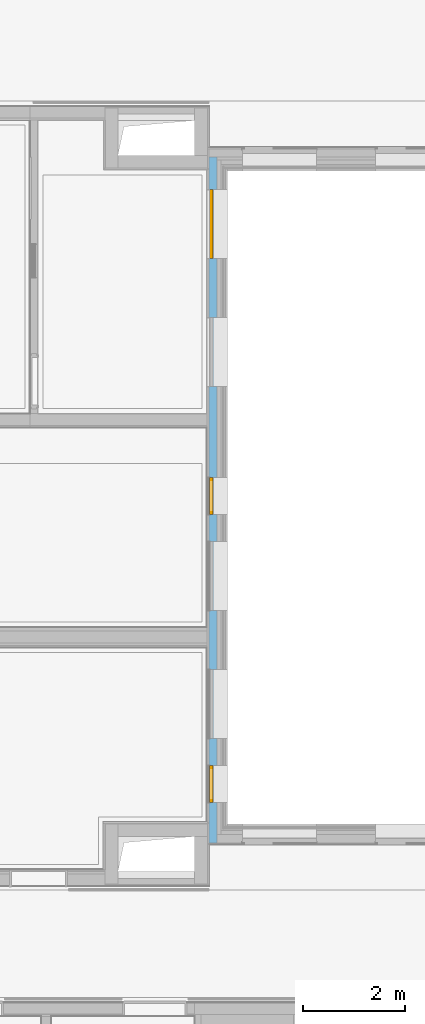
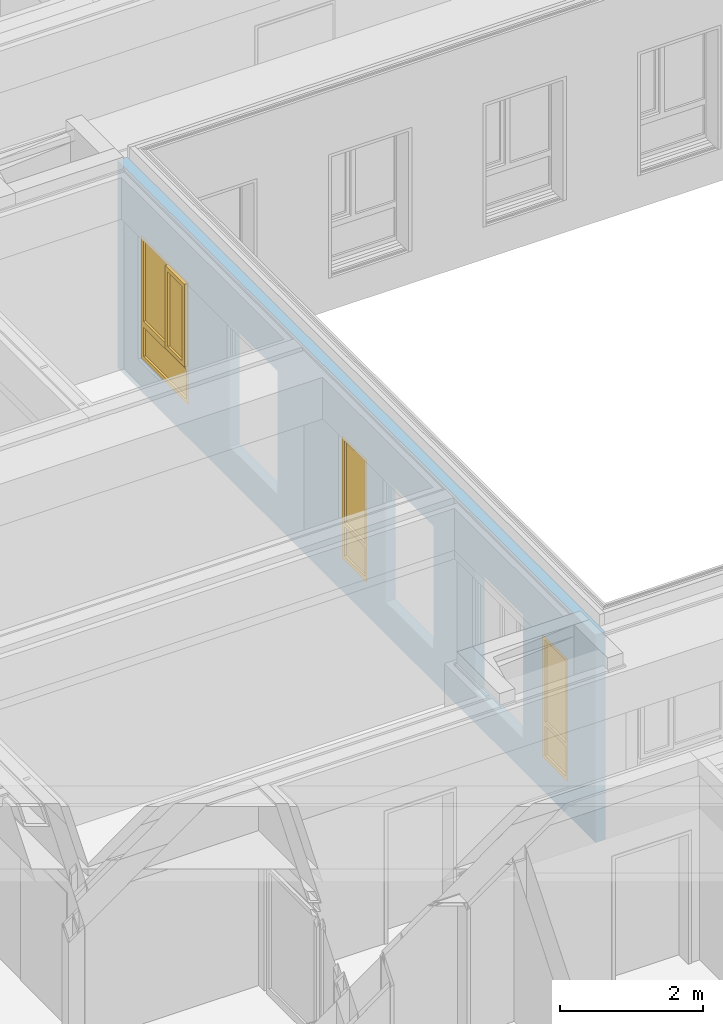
# One storey, part 121 of 222: 3 windows, 6 openings, plus 1 element that does not belong to this part.
"""IFC4 building model written with IfcOpenShell, lengths in metres."""

from ifc_helpers import new_model, entity, si_unit, converted_unit, derived_unit, frame, frame_2d, origin, origin_with_axes, place, context, subcontext, project, spatial, polyline, rectangle, outline, extrude, closed_shell, open_shell, surface_model, source, transform, mapped, material, element, fill, save


model = new_model("IFC4")

# Units and contexts
model_context = context("Model", 3, precision=1e-05, world=origin())
body_context = subcontext(model_context, "Body", "Model", "MODEL_VIEW")
ifc_project = project(units=[si_unit("LENGTHUNIT", "METRE"), si_unit("AREAUNIT", "SQUARE_METRE"), si_unit("VOLUMEUNIT", "CUBIC_METRE"), si_unit("MASSUNIT", "GRAM", prefix="KILO"), converted_unit("PLANEANGLEUNIT", "DEGREE", entity("IfcPlaneAngleMeasure", 0.0174532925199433), si_unit("PLANEANGLEUNIT", "RADIAN"), dimensions=[0, 0, 0, 0, 0, 0, 0]), derived_unit("THERMALTRANSMITTANCEUNIT", [(si_unit("POWERUNIT", "WATT"), 1), (si_unit("THERMODYNAMICTEMPERATUREUNIT", "KELVIN"), -1), (si_unit("LENGTHUNIT", "METRE"), -2)]), derived_unit("VOLUMETRICFLOWRATEUNIT", [(si_unit("LENGTHUNIT", "METRE"), 3), (converted_unit("TIMEUNIT", "hour", entity("IfcTimeMeasure", 3600.0), si_unit("TIMEUNIT", "SECOND"), dimensions=[0, 0, 1, 0, 0, 0, 0]), -1), (si_unit("LENGTHUNIT", "METRE"), -1)])], contexts=[model_context])

# Site, building, storey
site_placement = place(None, origin())
site = spatial("IfcSite", under=ifc_project, at=site_placement, Name="Psychiatrie Neubau Wunstorf", CompositionType="ELEMENT")
building_placement = place(site_placement, origin())
building = spatial("IfcBuilding", under=site, at=building_placement, Name="Neubau H2 Stationsgebäude", CompositionType="ELEMENT")
storey_placement = place(building_placement, frame((0.0, 0.0, 3.6)))
storey = spatial("IfcBuildingStorey", under=building, at=storey_placement, Name="H2 Ebene +1", CompositionType="ELEMENT", Elevation=3.6)

# Wall, openings, windows
ifc_material = material(Name="WA-DL")
wall_placement = place(storey_placement, frame((79.175, 21.840001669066, 0.0), z_axis=(0.0, 0.0, 1.0), x_axis=(0.0, -1.0, 0.0)))
wall = element("IfcWall", 1, at=wall_placement, inside=storey, material=ifc_material, context=body_context, shape_type="SweptSolid", body=[
    extrude(rectangle(XDim=13.390001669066, YDim=0.16, at=frame_2d((6.695000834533, 0.08), x_axis=(1.0, 0.0))), origin_with_axes(), (0.0, 0.0, 1.0), 3.55),
])
opening_1_placement = place(wall_placement, frame((11.3565882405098, 0.16, 0.55), z_axis=(0.0, -1.0, 0.0), x_axis=(0.0, 0.0, 1.0)))
element("IfcOpeningElement", 2, at=opening_1_placement, cuts=wall, Name="Fensteröffnung", ObjectType="Opening", context=body_context, shape_type="SweptSolid", body=[
    extrude(outline(polyline([(2.115, 1.35), (2.115, 0.0), (0.0, 0.0), (0.0, 1.35), (2.115, 1.35)])), origin_with_axes(), (0.0, 0.0, 1.0), 0.16),
])
opening_2_placement = place(wall_placement, frame((8.85664578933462, 0.16, 0.55), z_axis=(0.0, -1.0, 0.0), x_axis=(0.0, 0.0, 1.0)))
element("IfcOpeningElement", 3, at=opening_2_placement, cuts=wall, Name="Fensteröffnung", ObjectType="Opening", context=body_context, shape_type="SweptSolid", body=[
    extrude(outline(polyline([(2.115, 1.35), (2.115, 0.0), (0.0, 0.0), (0.0, 1.35), (2.115, 1.35)])), origin_with_axes(), (0.0, 0.0, 1.0), 0.16),
])
opening_3_placement = place(wall_placement, frame((4.48200631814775, 0.16, 0.55), z_axis=(0.0, -1.0, 0.0), x_axis=(0.0, 0.0, 1.0)))
element("IfcOpeningElement", 4, at=opening_3_placement, cuts=wall, Name="Fensteröffnung", ObjectType="Opening", context=body_context, shape_type="SweptSolid", body=[
    extrude(outline(polyline([(2.115, 1.35), (2.115, 0.0), (0.0, 0.0), (0.0, 1.35), (2.115, 1.35)])), origin_with_axes(), (0.0, 0.0, 1.0), 0.16),
])
opening_4_placement = place(wall_placement, frame((1.98244645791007, 0.16, 0.55), z_axis=(0.0, -1.0, 0.0), x_axis=(0.0, 0.0, 1.0)))
opening_4 = element("IfcOpeningElement", 5, at=opening_4_placement, cuts=wall, Name="Fensteröffnung", ObjectType="Opening", context=body_context, shape_type="SweptSolid", body=[
    extrude(outline(polyline([(2.115, 1.35), (2.115, 0.0), (0.0, 0.0), (0.0, 1.35), (2.115, 1.35)])), origin_with_axes(), (0.0, 0.0, 1.0), 0.16),
])
opening_5_placement = place(wall_placement, frame((12.6050016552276, 0.16, 0.55), z_axis=(0.0, -1.0, 0.0), x_axis=(0.0, 0.0, 1.0)))
opening_5 = element("IfcOpeningElement", 6, at=opening_5_placement, cuts=wall, Name="Fensteröffnung", ObjectType="Opening", context=body_context, shape_type="SweptSolid", body=[
    extrude(outline(polyline([(2.115, 0.725), (2.115, 0.0), (0.0, 0.0), (0.0, 0.725), (2.115, 0.725)])), origin_with_axes(), (0.0, 0.0, 1.0), 0.16),
])
opening_6_placement = place(wall_placement, frame((6.98238889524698, 0.16, 0.55), z_axis=(0.0, -1.0, 0.0), x_axis=(0.0, 0.0, 1.0)))
opening_6 = element("IfcOpeningElement", 7, at=opening_6_placement, cuts=wall, Name="Fensteröffnung", ObjectType="Opening", context=body_context, shape_type="SweptSolid", body=[
    extrude(outline(polyline([(2.115, 0.725), (2.115, 0.0), (0.0, 0.0), (0.0, 0.725), (2.115, 0.725)])), origin_with_axes(), (0.0, 0.0, 1.0), 0.16),
])
shared_shape_1 = source(origin_with_axes(), body_context, "Body", "SurfaceModel", [
    surface_model("IfcShellBasedSurfaceModel", [(1.35000000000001, 0.0, 2.115), (1.35000000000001, 0.0, 0.0), (1.28000000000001, 0.0, 0.0), (1.28000000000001, 0.0, 2.115), (1.35000000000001, 0.0699999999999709, 0.0), (1.35000000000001, 0.0699999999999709, 2.115), (1.28000000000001, 0.0699999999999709, 2.115), (1.28000000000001, 0.0699999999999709, 0.0)], [closed_shell([[[0, 1, 2, 3]], [[4, 5, 6, 7]], [[1, 0, 5, 4]], [[2, 1, 4, 7]], [[3, 2, 7, 6]], [[0, 3, 6, 5]]], orient=[[False], [False], [False], [False], [False], [False]])]),
    surface_model("IfcShellBasedSurfaceModel", [(0.0700000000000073, 0.0, 2.115), (0.0700000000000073, 0.0, 0.0), (0.0, 0.0, 0.0), (0.0, 0.0, 2.115), (0.0700000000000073, 0.0699999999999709, 0.0), (0.0700000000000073, 0.0699999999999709, 2.115), (0.0, 0.0699999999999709, 2.115), (0.0, 0.0699999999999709, 0.0)], [closed_shell([[[0, 1, 2, 3]], [[4, 5, 6, 7]], [[1, 0, 5, 4]], [[2, 1, 4, 7]], [[3, 2, 7, 6]], [[0, 3, 6, 5]]], orient=[[False], [False], [False], [False], [False], [False]])]),
    surface_model("IfcShellBasedSurfaceModel", [(1.28000000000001, 0.0, 0.07), (1.28000000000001, 0.0, 0.0), (0.0700000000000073, 0.0, 0.0), (0.0700000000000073, 0.0, 0.07), (1.28000000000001, 0.0699999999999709, 0.0), (1.28000000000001, 0.0699999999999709, 0.07), (0.0700000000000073, 0.0699999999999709, 0.07), (0.0700000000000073, 0.0699999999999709, 0.0)], [closed_shell([[[0, 1, 2, 3]], [[4, 5, 6, 7]], [[1, 0, 5, 4]], [[2, 1, 4, 7]], [[3, 2, 7, 6]], [[0, 3, 6, 5]]], orient=[[False], [False], [False], [False], [False], [False]])]),
    surface_model("IfcShellBasedSurfaceModel", [(1.28000000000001, 0.0, 2.115), (1.28000000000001, 0.0, 2.045), (0.0700000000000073, 0.0, 2.045), (0.0700000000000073, 0.0, 2.115), (1.28000000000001, 0.0699999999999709, 2.045), (1.28000000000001, 0.0699999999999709, 2.115), (0.0700000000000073, 0.0699999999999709, 2.115), (0.0700000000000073, 0.0699999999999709, 2.045)], [closed_shell([[[0, 1, 2, 3]], [[4, 5, 6, 7]], [[1, 0, 5, 4]], [[2, 1, 4, 7]], [[3, 2, 7, 6]], [[0, 3, 6, 5]]], orient=[[False], [False], [False], [False], [False], [False]])]),
    surface_model("IfcShellBasedSurfaceModel", [(1.28000000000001, 0.0, 0.67), (1.28000000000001, 0.0, 0.57), (0.0700000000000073, 0.0, 0.57), (0.0700000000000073, 0.0, 0.67), (1.28000000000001, 0.0699999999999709, 0.57), (1.28000000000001, 0.0699999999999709, 0.67), (0.0700000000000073, 0.0699999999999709, 0.67), (0.0700000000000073, 0.0699999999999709, 0.57)], [closed_shell([[[0, 1, 2, 3]], [[4, 5, 6, 7]], [[1, 0, 5, 4]], [[2, 1, 4, 7]], [[3, 2, 7, 6]], [[0, 3, 6, 5]]], orient=[[False], [False], [False], [False], [False], [False]])]),
    surface_model("IfcShellBasedSurfaceModel", [(1.28000000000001, 0.0349999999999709, 0.07), (0.0700000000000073, 0.0349999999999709, 0.07), (0.0700000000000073, 0.0349999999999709, 0.57), (1.28000000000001, 0.0349999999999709, 0.57)], [open_shell([[[0, 1, 2, 3]]], orient=[[False]])]),
    surface_model("IfcShellBasedSurfaceModel", [(0.784300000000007, 0.0, 2.045), (0.784300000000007, 0.0, 0.67), (0.714300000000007, 0.0, 0.67), (0.714300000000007, 0.0, 2.045), (0.784300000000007, 0.0699999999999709, 0.67), (0.784300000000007, 0.0699999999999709, 2.045), (0.714300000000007, 0.0699999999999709, 2.045), (0.714300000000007, 0.0699999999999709, 0.67)], [closed_shell([[[0, 1, 2, 3]], [[4, 5, 6, 7]], [[1, 0, 5, 4]], [[2, 1, 4, 7]], [[3, 2, 7, 6]], [[0, 3, 6, 5]]], orient=[[False], [False], [False], [False], [False], [False]])]),
    surface_model("IfcShellBasedSurfaceModel", [(1.30000000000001, -0.0500000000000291, 2.065), (1.30000000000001, -0.0500000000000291, 0.65), (1.23000000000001, -0.0500000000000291, 0.65), (1.23000000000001, -0.0500000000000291, 2.065), (1.30000000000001, 0.0199999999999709, 0.65), (1.30000000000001, 0.0199999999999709, 2.065), (1.23000000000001, 0.0199999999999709, 2.065), (1.23000000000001, 0.0199999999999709, 0.65)], [closed_shell([[[0, 1, 2, 3]], [[4, 5, 6, 7]], [[1, 0, 5, 4]], [[2, 1, 4, 7]], [[3, 2, 7, 6]], [[0, 3, 6, 5]]], orient=[[False], [False], [False], [False], [False], [False]])]),
    surface_model("IfcShellBasedSurfaceModel", [(0.834300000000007, -0.0500000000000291, 2.065), (0.834300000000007, -0.0500000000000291, 0.65), (0.764300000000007, -0.0500000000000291, 0.65), (0.764300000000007, -0.0500000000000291, 2.065), (0.834300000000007, 0.0199999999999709, 0.65), (0.834300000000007, 0.0199999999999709, 2.065), (0.764300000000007, 0.0199999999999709, 2.065), (0.764300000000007, 0.0199999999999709, 0.65)], [closed_shell([[[0, 1, 2, 3]], [[4, 5, 6, 7]], [[1, 0, 5, 4]], [[2, 1, 4, 7]], [[3, 2, 7, 6]], [[0, 3, 6, 5]]], orient=[[False], [False], [False], [False], [False], [False]])]),
    surface_model("IfcShellBasedSurfaceModel", [(1.23000000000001, -0.0500000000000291, 0.72), (1.23000000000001, -0.0500000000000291, 0.65), (0.834300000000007, -0.0500000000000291, 0.65), (0.834300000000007, -0.0500000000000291, 0.72), (1.23000000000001, 0.0199999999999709, 0.65), (1.23000000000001, 0.0199999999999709, 0.72), (0.834300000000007, 0.0199999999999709, 0.72), (0.834300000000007, 0.0199999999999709, 0.65)], [closed_shell([[[0, 1, 2, 3]], [[4, 5, 6, 7]], [[1, 0, 5, 4]], [[2, 1, 4, 7]], [[3, 2, 7, 6]], [[0, 3, 6, 5]]], orient=[[False], [False], [False], [False], [False], [False]])]),
    surface_model("IfcShellBasedSurfaceModel", [(1.23000000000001, -0.0500000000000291, 2.065), (1.23000000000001, -0.0500000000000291, 1.995), (0.834300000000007, -0.0500000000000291, 1.995), (0.834300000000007, -0.0500000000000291, 2.065), (1.23000000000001, 0.0199999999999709, 1.995), (1.23000000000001, 0.0199999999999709, 2.065), (0.834300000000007, 0.0199999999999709, 2.065), (0.834300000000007, 0.0199999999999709, 1.995)], [closed_shell([[[0, 1, 2, 3]], [[4, 5, 6, 7]], [[1, 0, 5, 4]], [[2, 1, 4, 7]], [[3, 2, 7, 6]], [[0, 3, 6, 5]]], orient=[[False], [False], [False], [False], [False], [False]])]),
    surface_model("IfcShellBasedSurfaceModel", [(0.714300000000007, 0.0349999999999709, 0.67), (0.0700000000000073, 0.0349999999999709, 0.67), (0.0700000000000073, 0.0349999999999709, 2.045), (0.714300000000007, 0.0349999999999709, 2.045)], [open_shell([[[0, 1, 2, 3]]], orient=[[False]])]),
    surface_model("IfcShellBasedSurfaceModel", [(1.23000000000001, -0.0150000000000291, 0.72), (0.834300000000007, -0.0150000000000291, 0.72), (0.834300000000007, -0.0150000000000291, 1.995), (1.23000000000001, -0.0150000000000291, 1.995)], [open_shell([[[0, 1, 2, 3]]], orient=[[False]])]),
])
window_1_placement = place(opening_4_placement, frame((0.0, 1.35, 0.146), z_axis=(1.0, 0.0, 0.0), x_axis=(0.0, -1.0, 0.0)))
window_1 = element("IfcWindow", 8, at=window_1_placement, inside=storey, Name="Fenster", OverallHeight=2.115, OverallWidth=1.35, PartitioningType="USERDEFINED", PredefinedType="WINDOW", context=body_context, shape_type="MappedRepresentation", body=[
    mapped(shared_shape_1, transform((0.0, 0.0, 0.0), x_axis=(1.0, 0.0, 0.0), y_axis=(0.0, 1.0, 0.0), z_axis=(0.0, 0.0, 1.0), scale=1.0)),
])
fill(opening_4, window_1)
shared_shape_2 = source(origin_with_axes(), body_context, "Body", "SurfaceModel", [
    surface_model("IfcShellBasedSurfaceModel", [(0.0, 0.0, 2.115), (0.0699999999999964, 0.0, 2.115), (0.0699999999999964, 0.0, 0.0), (0.0, 0.0, 0.0), (0.0, 0.0700000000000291, 0.0), (0.0699999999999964, 0.0700000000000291, 0.0), (0.0699999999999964, 0.0700000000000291, 2.115), (0.0, 0.0700000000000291, 2.115)], [closed_shell([[[0, 1, 2, 3]], [[4, 5, 6, 7]], [[3, 4, 7, 0]], [[2, 5, 4, 3]], [[1, 6, 5, 2]], [[0, 7, 6, 1]]], orient=[[False], [False], [False], [False], [False], [False]])]),
    surface_model("IfcShellBasedSurfaceModel", [(0.654999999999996, 0.0, 2.115), (0.724999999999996, 0.0, 2.115), (0.724999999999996, 0.0, 0.0), (0.654999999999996, 0.0, 0.0), (0.654999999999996, 0.0700000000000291, 0.0), (0.724999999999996, 0.0700000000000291, 0.0), (0.724999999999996, 0.0700000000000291, 2.115), (0.654999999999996, 0.0700000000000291, 2.115)], [closed_shell([[[0, 1, 2, 3]], [[4, 5, 6, 7]], [[3, 4, 7, 0]], [[2, 5, 4, 3]], [[1, 6, 5, 2]], [[0, 7, 6, 1]]], orient=[[False], [False], [False], [False], [False], [False]])]),
    surface_model("IfcShellBasedSurfaceModel", [(0.0699999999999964, 0.0, 0.07), (0.654999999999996, 0.0, 0.07), (0.654999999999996, 0.0, 0.0), (0.0699999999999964, 0.0, 0.0), (0.0699999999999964, 0.0700000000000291, 0.0), (0.654999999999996, 0.0700000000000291, 0.0), (0.654999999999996, 0.0700000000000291, 0.07), (0.0699999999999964, 0.0700000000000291, 0.07)], [closed_shell([[[0, 1, 2, 3]], [[4, 5, 6, 7]], [[3, 4, 7, 0]], [[2, 5, 4, 3]], [[1, 6, 5, 2]], [[0, 7, 6, 1]]], orient=[[False], [False], [False], [False], [False], [False]])]),
    surface_model("IfcShellBasedSurfaceModel", [(0.0699999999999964, 0.0, 2.115), (0.654999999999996, 0.0, 2.115), (0.654999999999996, 0.0, 2.045), (0.0699999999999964, 0.0, 2.045), (0.0699999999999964, 0.0700000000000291, 2.045), (0.654999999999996, 0.0700000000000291, 2.045), (0.654999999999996, 0.0700000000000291, 2.115), (0.0699999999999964, 0.0700000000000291, 2.115)], [closed_shell([[[0, 1, 2, 3]], [[4, 5, 6, 7]], [[3, 4, 7, 0]], [[2, 5, 4, 3]], [[1, 6, 5, 2]], [[0, 7, 6, 1]]], orient=[[False], [False], [False], [False], [False], [False]])]),
    surface_model("IfcShellBasedSurfaceModel", [(0.0699999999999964, 0.0, 0.64), (0.654999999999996, 0.0, 0.64), (0.654999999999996, 0.0, 0.57), (0.0699999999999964, 0.0, 0.57), (0.0699999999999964, 0.0700000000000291, 0.57), (0.654999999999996, 0.0700000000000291, 0.57), (0.654999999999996, 0.0700000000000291, 0.64), (0.0699999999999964, 0.0700000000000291, 0.64)], [closed_shell([[[0, 1, 2, 3]], [[4, 5, 6, 7]], [[3, 4, 7, 0]], [[2, 5, 4, 3]], [[1, 6, 5, 2]], [[0, 7, 6, 1]]], orient=[[False], [False], [False], [False], [False], [False]])]),
    surface_model("IfcShellBasedSurfaceModel", [(0.0699999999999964, 0.0350000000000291, 0.07), (0.0699999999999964, 0.0350000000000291, 0.57), (0.654999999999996, 0.0350000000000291, 0.57), (0.654999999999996, 0.0350000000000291, 0.07)], [open_shell([[[0, 1, 2, 3]]], orient=[[False]])]),
    surface_model("IfcShellBasedSurfaceModel", [(0.0699999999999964, 0.0350000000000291, 0.64), (0.0699999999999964, 0.0350000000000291, 2.045), (0.654999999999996, 0.0350000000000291, 2.045), (0.654999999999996, 0.0350000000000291, 0.64)], [open_shell([[[0, 1, 2, 3]]], orient=[[False]])]),
])
window_2_placement = place(opening_5_placement, frame((0.0, 0.0, 0.076), z_axis=(1.0, 0.0, 0.0), x_axis=(0.0, 1.0, 0.0)))
window_2 = element("IfcWindow", 9, at=window_2_placement, inside=storey, Name="Fenster", OverallHeight=2.115, OverallWidth=0.725, PartitioningType="USERDEFINED", PredefinedType="WINDOW", context=body_context, shape_type="MappedRepresentation", body=[
    mapped(shared_shape_2, transform((0.0, 0.0, 0.0), x_axis=(1.0, 0.0, 0.0), y_axis=(0.0, 1.0, 0.0), z_axis=(0.0, 0.0, 1.0), scale=1.0)),
])
fill(opening_5, window_2)
shared_shape_3 = source(origin_with_axes(), body_context, "Body", "SurfaceModel", [
    surface_model("IfcShellBasedSurfaceModel", [(0.0, 0.0, 2.115), (0.0699999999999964, 0.0, 2.115), (0.0699999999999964, 0.0, 0.0), (0.0, 0.0, 0.0), (0.0, 0.0700000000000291, 0.0), (0.0699999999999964, 0.0700000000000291, 0.0), (0.0699999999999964, 0.0700000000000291, 2.115), (0.0, 0.0700000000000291, 2.115)], [closed_shell([[[0, 1, 2, 3]], [[4, 5, 6, 7]], [[3, 4, 7, 0]], [[2, 5, 4, 3]], [[1, 6, 5, 2]], [[0, 7, 6, 1]]], orient=[[False], [False], [False], [False], [False], [False]])]),
    surface_model("IfcShellBasedSurfaceModel", [(0.654999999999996, 0.0, 2.115), (0.724999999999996, 0.0, 2.115), (0.724999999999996, 0.0, 0.0), (0.654999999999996, 0.0, 0.0), (0.654999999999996, 0.0700000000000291, 0.0), (0.724999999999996, 0.0700000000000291, 0.0), (0.724999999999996, 0.0700000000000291, 2.115), (0.654999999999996, 0.0700000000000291, 2.115)], [closed_shell([[[0, 1, 2, 3]], [[4, 5, 6, 7]], [[3, 4, 7, 0]], [[2, 5, 4, 3]], [[1, 6, 5, 2]], [[0, 7, 6, 1]]], orient=[[False], [False], [False], [False], [False], [False]])]),
    surface_model("IfcShellBasedSurfaceModel", [(0.0699999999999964, 0.0, 0.07), (0.654999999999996, 0.0, 0.07), (0.654999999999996, 0.0, 0.0), (0.0699999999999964, 0.0, 0.0), (0.0699999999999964, 0.0700000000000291, 0.0), (0.654999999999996, 0.0700000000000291, 0.0), (0.654999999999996, 0.0700000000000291, 0.07), (0.0699999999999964, 0.0700000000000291, 0.07)], [closed_shell([[[0, 1, 2, 3]], [[4, 5, 6, 7]], [[3, 4, 7, 0]], [[2, 5, 4, 3]], [[1, 6, 5, 2]], [[0, 7, 6, 1]]], orient=[[False], [False], [False], [False], [False], [False]])]),
    surface_model("IfcShellBasedSurfaceModel", [(0.0699999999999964, 0.0, 2.115), (0.654999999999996, 0.0, 2.115), (0.654999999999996, 0.0, 2.045), (0.0699999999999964, 0.0, 2.045), (0.0699999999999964, 0.0700000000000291, 2.045), (0.654999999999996, 0.0700000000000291, 2.045), (0.654999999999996, 0.0700000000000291, 2.115), (0.0699999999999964, 0.0700000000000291, 2.115)], [closed_shell([[[0, 1, 2, 3]], [[4, 5, 6, 7]], [[3, 4, 7, 0]], [[2, 5, 4, 3]], [[1, 6, 5, 2]], [[0, 7, 6, 1]]], orient=[[False], [False], [False], [False], [False], [False]])]),
    surface_model("IfcShellBasedSurfaceModel", [(0.0699999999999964, 0.0, 0.64), (0.654999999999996, 0.0, 0.64), (0.654999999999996, 0.0, 0.57), (0.0699999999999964, 0.0, 0.57), (0.0699999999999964, 0.0700000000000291, 0.57), (0.654999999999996, 0.0700000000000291, 0.57), (0.654999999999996, 0.0700000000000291, 0.64), (0.0699999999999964, 0.0700000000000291, 0.64)], [closed_shell([[[0, 1, 2, 3]], [[4, 5, 6, 7]], [[3, 4, 7, 0]], [[2, 5, 4, 3]], [[1, 6, 5, 2]], [[0, 7, 6, 1]]], orient=[[False], [False], [False], [False], [False], [False]])]),
    surface_model("IfcShellBasedSurfaceModel", [(0.0699999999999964, 0.0350000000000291, 0.07), (0.0699999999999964, 0.0350000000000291, 0.57), (0.654999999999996, 0.0350000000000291, 0.57), (0.654999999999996, 0.0350000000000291, 0.07)], [open_shell([[[0, 1, 2, 3]]], orient=[[False]])]),
    surface_model("IfcShellBasedSurfaceModel", [(0.0699999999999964, 0.0350000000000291, 0.64), (0.0699999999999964, 0.0350000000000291, 2.045), (0.654999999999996, 0.0350000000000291, 2.045), (0.654999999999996, 0.0350000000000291, 0.64)], [open_shell([[[0, 1, 2, 3]]], orient=[[False]])]),
])
window_3_placement = place(opening_6_placement, frame((0.0, 0.0, 0.076), z_axis=(1.0, 0.0, 0.0), x_axis=(0.0, 1.0, 0.0)))
window_3 = element("IfcWindow", 10, at=window_3_placement, inside=storey, Name="Fenster", OverallHeight=2.115, OverallWidth=0.725, PartitioningType="USERDEFINED", PredefinedType="WINDOW", context=body_context, shape_type="MappedRepresentation", body=[
    mapped(shared_shape_3, transform((0.0, 0.0, 0.0), x_axis=(1.0, 0.0, 0.0), y_axis=(0.0, 1.0, 0.0), z_axis=(0.0, 0.0, 1.0), scale=1.0)),
])
fill(opening_6, window_3)

save(model, "model.ifc")
